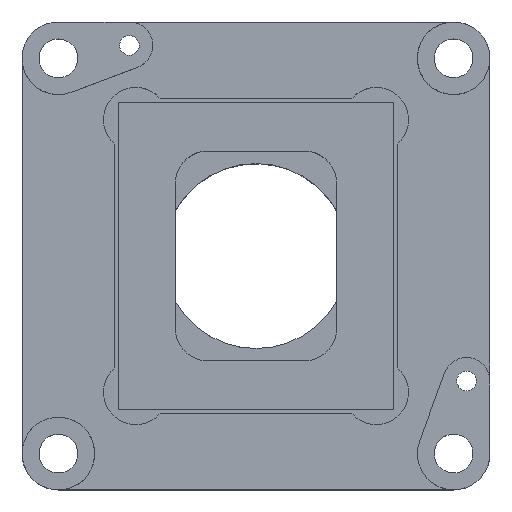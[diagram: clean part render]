
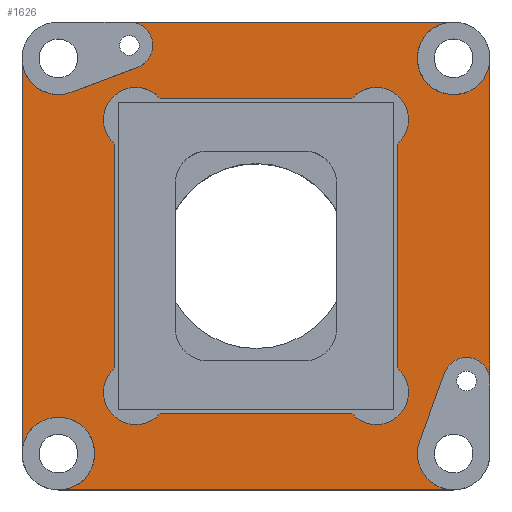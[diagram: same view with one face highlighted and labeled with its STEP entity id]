
A CAD part, top view. The second image highlights one B-rep face of the part: STEP entity #1626.
In plain terms, the highlighted planar face has unit normal (0, 0, 1).
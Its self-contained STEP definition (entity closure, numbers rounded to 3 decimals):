
#67=FACE_BOUND('',#272,.T.);
#102=PLANE('',#1877);
#174=FACE_OUTER_BOUND('',#271,.T.);
#271=EDGE_LOOP('',(#1296,#1297,#1298,#1299,#1300,#1301,#1302,#1303,#1304,
#1305,#1306,#1307,#1308,#1309));
#272=EDGE_LOOP('',(#1310,#1311,#1312,#1313,#1314,#1315,#1316,#1317));
#368=LINE('',#2619,#512);
#374=LINE('',#2631,#518);
#378=LINE('',#2640,#522);
#380=LINE('',#2646,#524);
#386=LINE('',#2686,#530);
#392=LINE('',#2705,#536);
#400=LINE('',#2731,#544);
#403=LINE('',#2741,#547);
#404=LINE('',#2747,#548);
#405=LINE('',#2749,#549);
#512=VECTOR('',#2093,10.);
#518=VECTOR('',#2101,10.);
#522=VECTOR('',#2107,10.);
#524=VECTOR('',#2111,10.);
#530=VECTOR('',#2169,10.);
#536=VECTOR('',#2187,10.);
#544=VECTOR('',#2213,10.);
#547=VECTOR('',#2222,10.);
#548=VECTOR('',#2227,10.);
#549=VECTOR('',#2230,10.);
#648=CIRCLE('',#1843,2.);
#649=CIRCLE('',#1845,2.);
#650=CIRCLE('',#1847,2.);
#651=CIRCLE('',#1849,2.);
#657=CIRCLE('',#1863,1.45);
#660=CIRCLE('',#1869,1.45);
#664=CIRCLE('',#1875,2.25);
#665=CIRCLE('',#1878,2.25);
#666=CIRCLE('',#1879,2.25);
#667=CIRCLE('',#1880,2.25);
#668=CIRCLE('',#1881,2.25);
#669=CIRCLE('',#1882,2.25);
#743=VERTEX_POINT('',#2616);
#744=VERTEX_POINT('',#2618);
#746=VERTEX_POINT('',#2624);
#749=VERTEX_POINT('',#2629);
#750=VERTEX_POINT('',#2633);
#753=VERTEX_POINT('',#2638);
#755=VERTEX_POINT('',#2643);
#756=VERTEX_POINT('',#2645);
#763=VERTEX_POINT('',#2684);
#764=VERTEX_POINT('',#2685);
#767=VERTEX_POINT('',#2693);
#770=VERTEX_POINT('',#2703);
#771=VERTEX_POINT('',#2704);
#774=VERTEX_POINT('',#2712);
#779=VERTEX_POINT('',#2726);
#780=VERTEX_POINT('',#2730);
#782=VERTEX_POINT('',#2736);
#783=VERTEX_POINT('',#2737);
#784=VERTEX_POINT('',#2740);
#785=VERTEX_POINT('',#2742);
#786=VERTEX_POINT('',#2744);
#787=VERTEX_POINT('',#2746);
#919=EDGE_CURVE('',#744,#743,#368,.T.);
#925=EDGE_CURVE('',#746,#749,#374,.T.);
#929=EDGE_CURVE('',#750,#753,#378,.T.);
#931=EDGE_CURVE('',#756,#755,#380,.T.);
#939=EDGE_CURVE('',#753,#756,#648,.T.);
#940=EDGE_CURVE('',#749,#744,#649,.T.);
#941=EDGE_CURVE('',#755,#746,#650,.T.);
#942=EDGE_CURVE('',#743,#750,#651,.T.);
#951=EDGE_CURVE('',#763,#764,#386,.T.);
#955=EDGE_CURVE('',#767,#763,#657,.T.);
#960=EDGE_CURVE('',#770,#771,#392,.T.);
#964=EDGE_CURVE('',#771,#774,#660,.T.);
#972=EDGE_CURVE('',#764,#779,#664,.T.);
#973=EDGE_CURVE('',#780,#767,#400,.T.);
#976=EDGE_CURVE('',#782,#783,#665,.T.);
#977=EDGE_CURVE('',#783,#780,#666,.T.);
#978=EDGE_CURVE('',#779,#784,#403,.T.);
#979=EDGE_CURVE('',#784,#785,#667,.T.);
#980=EDGE_CURVE('',#785,#786,#668,.T.);
#981=EDGE_CURVE('',#786,#787,#404,.T.);
#982=EDGE_CURVE('',#787,#770,#669,.T.);
#983=EDGE_CURVE('',#774,#782,#405,.T.);
#1296=ORIENTED_EDGE('',*,*,#976,.T.);
#1297=ORIENTED_EDGE('',*,*,#977,.T.);
#1298=ORIENTED_EDGE('',*,*,#973,.T.);
#1299=ORIENTED_EDGE('',*,*,#955,.T.);
#1300=ORIENTED_EDGE('',*,*,#951,.T.);
#1301=ORIENTED_EDGE('',*,*,#972,.T.);
#1302=ORIENTED_EDGE('',*,*,#978,.T.);
#1303=ORIENTED_EDGE('',*,*,#979,.T.);
#1304=ORIENTED_EDGE('',*,*,#980,.T.);
#1305=ORIENTED_EDGE('',*,*,#981,.T.);
#1306=ORIENTED_EDGE('',*,*,#982,.T.);
#1307=ORIENTED_EDGE('',*,*,#960,.T.);
#1308=ORIENTED_EDGE('',*,*,#964,.T.);
#1309=ORIENTED_EDGE('',*,*,#983,.T.);
#1310=ORIENTED_EDGE('',*,*,#931,.T.);
#1311=ORIENTED_EDGE('',*,*,#941,.T.);
#1312=ORIENTED_EDGE('',*,*,#925,.T.);
#1313=ORIENTED_EDGE('',*,*,#940,.T.);
#1314=ORIENTED_EDGE('',*,*,#919,.T.);
#1315=ORIENTED_EDGE('',*,*,#942,.T.);
#1316=ORIENTED_EDGE('',*,*,#929,.T.);
#1317=ORIENTED_EDGE('',*,*,#939,.T.);
#1626=ADVANCED_FACE('',(#174,#67),#102,.T.);
#1843=AXIS2_PLACEMENT_3D('',#2658,#2128,#2129);
#1845=AXIS2_PLACEMENT_3D('',#2660,#2132,#2133);
#1847=AXIS2_PLACEMENT_3D('',#2662,#2136,#2137);
#1849=AXIS2_PLACEMENT_3D('',#2664,#2140,#2141);
#1863=AXIS2_PLACEMENT_3D('',#2694,#2175,#2176);
#1869=AXIS2_PLACEMENT_3D('',#2713,#2193,#2194);
#1875=AXIS2_PLACEMENT_3D('',#2728,#2209,#2210);
#1877=AXIS2_PLACEMENT_3D('',#2735,#2216,#2217);
#1878=AXIS2_PLACEMENT_3D('',#2738,#2218,#2219);
#1879=AXIS2_PLACEMENT_3D('',#2739,#2220,#2221);
#1880=AXIS2_PLACEMENT_3D('',#2743,#2223,#2224);
#1881=AXIS2_PLACEMENT_3D('',#2745,#2225,#2226);
#1882=AXIS2_PLACEMENT_3D('',#2748,#2228,#2229);
#2093=DIRECTION('',(1.,0.,0.));
#2101=DIRECTION('',(0.,1.,0.));
#2107=DIRECTION('',(0.,-1.,0.));
#2111=DIRECTION('',(-1.,0.,0.));
#2128=DIRECTION('center_axis',(0.,0.,-1.));
#2129=DIRECTION('ref_axis',(-1.,0.,0.));
#2132=DIRECTION('center_axis',(0.,0.,-1.));
#2133=DIRECTION('ref_axis',(-1.,0.,0.));
#2136=DIRECTION('center_axis',(0.,0.,-1.));
#2137=DIRECTION('ref_axis',(-1.,0.,0.));
#2140=DIRECTION('center_axis',(0.,0.,-1.));
#2141=DIRECTION('ref_axis',(-1.,0.,0.));
#2169=DIRECTION('',(-0.936,-0.352,0.));
#2175=DIRECTION('center_axis',(0.,0.,-1.));
#2176=DIRECTION('ref_axis',(0.352,-0.936,0.));
#2187=DIRECTION('',(0.345,0.939,0.));
#2193=DIRECTION('center_axis',(0.,0.,-1.));
#2194=DIRECTION('ref_axis',(1.,0.,0.));
#2209=DIRECTION('center_axis',(0.,0.,-1.));
#2210=DIRECTION('ref_axis',(-1.,0.,0.));
#2213=DIRECTION('',(-1.,0.,0.));
#2216=DIRECTION('center_axis',(0.,0.,1.));
#2217=DIRECTION('ref_axis',(1.,0.,0.));
#2218=DIRECTION('center_axis',(0.,0.,-1.));
#2219=DIRECTION('ref_axis',(-1.,0.,0.));
#2220=DIRECTION('center_axis',(0.,0.,-1.));
#2221=DIRECTION('ref_axis',(-1.,0.,0.));
#2222=DIRECTION('',(0.,-1.,0.));
#2223=DIRECTION('center_axis',(0.,0.,-1.));
#2224=DIRECTION('ref_axis',(-1.,0.,0.));
#2225=DIRECTION('center_axis',(0.,0.,-1.));
#2226=DIRECTION('ref_axis',(-1.,0.,0.));
#2227=DIRECTION('',(1.,0.,0.));
#2228=DIRECTION('center_axis',(0.,0.,-1.));
#2229=DIRECTION('ref_axis',(-1.,0.,0.));
#2230=DIRECTION('',(0.,1.,0.));
#2616=CARTESIAN_POINT('',(5.93,9.75,2.3));
#2618=CARTESIAN_POINT('',(-5.93,9.75,2.3));
#2619=CARTESIAN_POINT('',(-4.375,9.75,2.3));
#2624=CARTESIAN_POINT('',(-8.75,-6.93,2.3));
#2629=CARTESIAN_POINT('',(-8.75,6.93,2.3));
#2631=CARTESIAN_POINT('',(-8.75,-4.875,2.3));
#2633=CARTESIAN_POINT('',(8.75,6.93,2.3));
#2638=CARTESIAN_POINT('',(8.75,-6.93,2.3));
#2640=CARTESIAN_POINT('',(8.75,4.875,2.3));
#2643=CARTESIAN_POINT('',(-5.93,-9.75,2.3));
#2645=CARTESIAN_POINT('',(5.93,-9.75,2.3));
#2646=CARTESIAN_POINT('',(4.375,-9.75,2.3));
#2658=CARTESIAN_POINT('Origin',(7.45,-8.45,2.3));
#2660=CARTESIAN_POINT('Origin',(-7.45,8.45,2.3));
#2662=CARTESIAN_POINT('Origin',(-7.45,-8.45,2.3));
#2664=CARTESIAN_POINT('Origin',(7.45,8.45,2.3));
#2684=CARTESIAN_POINT('',(-7.34,11.693,2.3));
#2685=CARTESIAN_POINT('',(-11.458,10.144,2.3));
#2686=CARTESIAN_POINT('',(-8.11,11.403,2.3));
#2693=CARTESIAN_POINT('',(-7.85,14.5,2.3));
#2694=CARTESIAN_POINT('Origin',(-7.85,13.05,2.3));
#2703=CARTESIAN_POINT('',(10.138,-11.475,2.3));
#2704=CARTESIAN_POINT('',(11.689,-7.25,2.3));
#2705=CARTESIAN_POINT('',(12.167,-5.947,2.3));
#2712=CARTESIAN_POINT('',(14.5,-7.75,2.3));
#2713=CARTESIAN_POINT('Origin',(13.05,-7.75,2.3));
#2726=CARTESIAN_POINT('',(-14.5,12.25,2.3));
#2728=CARTESIAN_POINT('Origin',(-12.25,12.25,2.3));
#2730=CARTESIAN_POINT('',(12.25,14.5,2.3));
#2731=CARTESIAN_POINT('',(-14.5,14.5,2.3));
#2735=CARTESIAN_POINT('Origin',(0.,0.,2.3));
#2736=CARTESIAN_POINT('',(14.5,12.25,2.3));
#2737=CARTESIAN_POINT('',(10.659,10.659,2.3));
#2738=CARTESIAN_POINT('Origin',(12.25,12.25,2.3));
#2739=CARTESIAN_POINT('Origin',(12.25,12.25,2.3));
#2740=CARTESIAN_POINT('',(-14.5,-12.25,2.3));
#2741=CARTESIAN_POINT('',(-14.5,-14.5,2.3));
#2742=CARTESIAN_POINT('',(-10.659,-10.659,2.3));
#2743=CARTESIAN_POINT('Origin',(-12.25,-12.25,2.3));
#2744=CARTESIAN_POINT('',(-12.25,-14.5,2.3));
#2745=CARTESIAN_POINT('Origin',(-12.25,-12.25,2.3));
#2746=CARTESIAN_POINT('',(12.25,-14.5,2.3));
#2747=CARTESIAN_POINT('',(14.5,-14.5,2.3));
#2748=CARTESIAN_POINT('Origin',(12.25,-12.25,2.3));
#2749=CARTESIAN_POINT('',(14.5,14.5,2.3));
